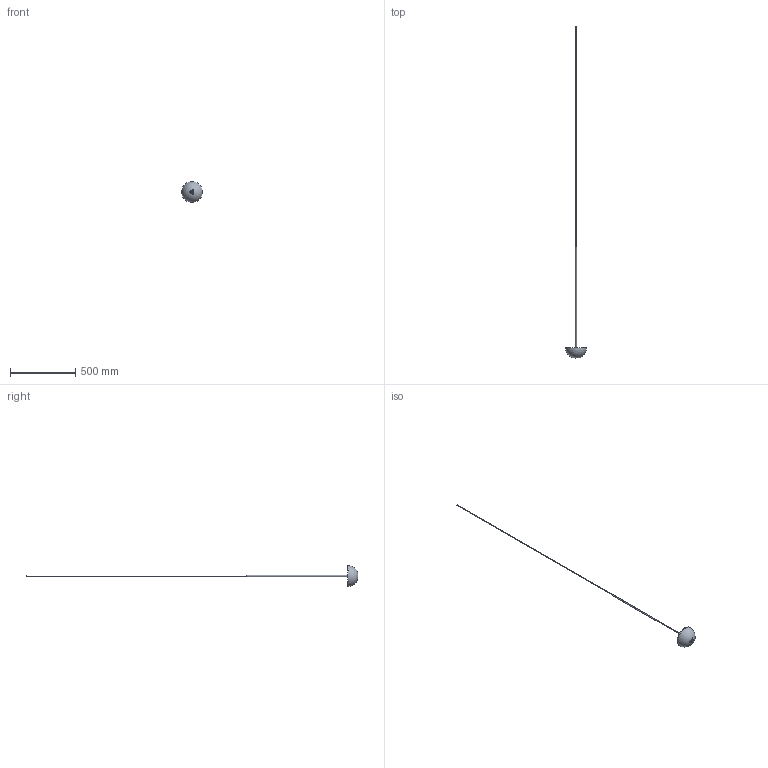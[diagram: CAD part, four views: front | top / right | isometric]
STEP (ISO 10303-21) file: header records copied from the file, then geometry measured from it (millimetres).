
FILE_DESCRIPTION(/* description */ (''),/* implementation_level */ '2;1');
FILE_NAME(/* name */ 'LOUIS XIV 2.stp',/* time_stamp */ '2024-04-18T15:29:58+02:00',/* author */ ('n.bisotti'),/* organization */ (''),/* preprocessor_version */ 'ST-DEVELOPER v19.2',/* originating_system */ 'Autodesk Inventor 2023',/* authorisation */ '');
FILE_SCHEMA (('AUTOMOTIVE_DESIGN { 1 0 10303 214 3 1 1 }'));
Length unit declared in the file: centimetre
Products named in the file (1): LOUIS XIV
Bounding box: 161.8 x 2550.64 x 161.8 mm (x, y, z)
Volume: 175933.3 mm3; surface area: 222072.9 mm2
Topology: 10 solids, 10 shells, 1599 faces, 4538 edges, 2904 vertices
Faces by surface type: bspline 548, plane 384, cylinder 343, cone 208, torus 108, sphere 8
Full cylindrical faces by diameter (mm): 3 x1, 4.5 x1, 6 x1, 7 x1, 8 x1, 23 x4, 24 x1, 27 x1, 29 x1, 155 x1
Entity records: 124492 total; most frequent: CARTESIAN_POINT 84973, ORIENTED_EDGE 9036, DIRECTION 6583, EDGE_CURVE 4518, VERTEX_POINT 2904, AXIS2_PLACEMENT_3D 2788, B_SPLINE_CURVE_WITH_KNOTS 1745, EDGE_LOOP 1658
